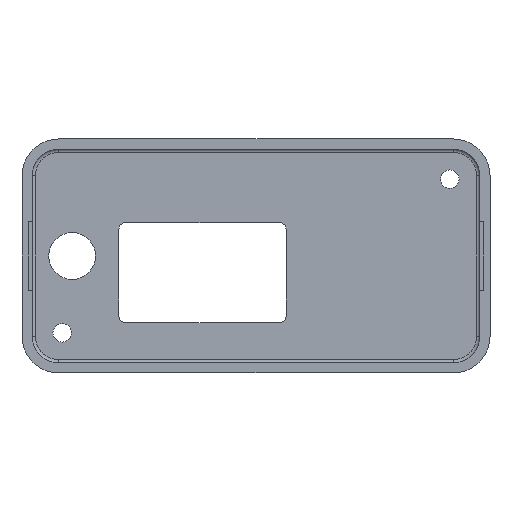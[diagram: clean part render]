
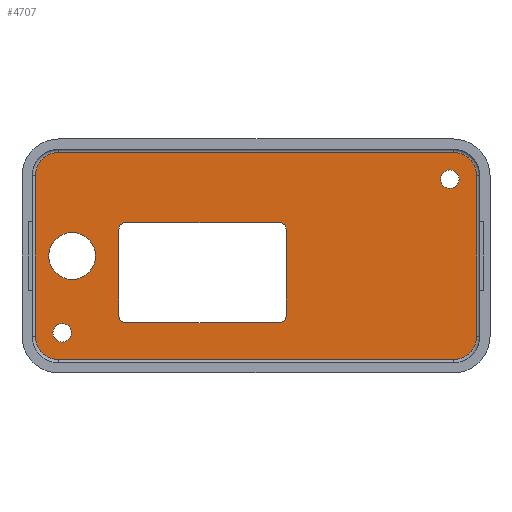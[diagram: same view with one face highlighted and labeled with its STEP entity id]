
A CAD part, front view. The second image highlights one B-rep face of the part: STEP entity #4707.
In plain terms, the highlighted planar face has unit normal (0, -1, 0).
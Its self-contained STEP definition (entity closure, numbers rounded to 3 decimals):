
#1384=CARTESIAN_POINT('',(-27.5,21.,0.));
#1385=DIRECTION('',(0.,1.,0.));
#1386=DIRECTION('',(-1.,0.,0.));
#1387=AXIS2_PLACEMENT_3D('',#1384,#1385,#1386);
#1389=CARTESIAN_POINT('',(-27.5,21.,0.));
#1390=DIRECTION('',(0.,1.,0.));
#1391=DIRECTION('',(1.,0.,0.));
#1392=AXIS2_PLACEMENT_3D('',#1389,#1390,#1391);
#1394=DIRECTION('',(0.,0.,-1.));
#1395=VECTOR('',#1394,13.);
#1396=CARTESIAN_POINT('',(4.5,21.,4.));
#1397=LINE('',#1396,#1395);
#1398=DIRECTION('',(1.,0.,0.));
#1399=VECTOR('',#1398,23.);
#1400=CARTESIAN_POINT('',(-19.5,21.,5.));
#1401=LINE('',#1400,#1399);
#1402=DIRECTION('',(0.,0.,1.));
#1403=VECTOR('',#1402,13.);
#1404=CARTESIAN_POINT('',(-20.5,21.,-9.));
#1405=LINE('',#1404,#1403);
#1406=DIRECTION('',(-1.,0.,0.));
#1407=VECTOR('',#1406,23.);
#1408=CARTESIAN_POINT('',(3.5,21.,-10.));
#1409=LINE('',#1408,#1407);
#1410=CARTESIAN_POINT('',(-29.,21.,-11.5));
#1411=DIRECTION('',(0.,1.,0.));
#1412=DIRECTION('',(0.,0.,-1.));
#1413=AXIS2_PLACEMENT_3D('',#1410,#1411,#1412);
#1415=CARTESIAN_POINT('',(-29.,21.,-11.5));
#1416=DIRECTION('',(0.,1.,0.));
#1417=DIRECTION('',(0.,0.,1.));
#1418=AXIS2_PLACEMENT_3D('',#1415,#1416,#1417);
#1420=CARTESIAN_POINT('',(29.,21.,11.5));
#1421=DIRECTION('',(0.,1.,0.));
#1422=DIRECTION('',(0.,0.,-1.));
#1423=AXIS2_PLACEMENT_3D('',#1420,#1421,#1422);
#1425=CARTESIAN_POINT('',(29.,21.,11.5));
#1426=DIRECTION('',(0.,1.,0.));
#1427=DIRECTION('',(0.,0.,1.));
#1428=AXIS2_PLACEMENT_3D('',#1425,#1426,#1427);
#1430=DIRECTION('',(0.,0.,1.));
#1431=VECTOR('',#1430,24.);
#1432=CARTESIAN_POINT('',(33.,21.,-12.));
#1433=LINE('',#1432,#1431);
#1434=CARTESIAN_POINT('',(29.5,21.,-12.));
#1435=DIRECTION('',(0.,-1.,0.));
#1436=DIRECTION('',(0.,0.,-1.));
#1437=AXIS2_PLACEMENT_3D('',#1434,#1435,#1436);
#1439=DIRECTION('',(1.,0.,0.));
#1440=VECTOR('',#1439,59.);
#1441=CARTESIAN_POINT('',(-29.5,21.,-15.5));
#1442=LINE('',#1441,#1440);
#1443=CARTESIAN_POINT('',(-29.5,21.,-12.));
#1444=DIRECTION('',(0.,-1.,0.));
#1445=DIRECTION('',(-1.,0.,0.));
#1446=AXIS2_PLACEMENT_3D('',#1443,#1444,#1445);
#1448=DIRECTION('',(0.,0.,-1.));
#1449=VECTOR('',#1448,24.);
#1450=CARTESIAN_POINT('',(-33.,21.,12.));
#1451=LINE('',#1450,#1449);
#1452=CARTESIAN_POINT('',(-29.5,21.,12.));
#1453=DIRECTION('',(0.,-1.,0.));
#1454=DIRECTION('',(0.,0.,1.));
#1455=AXIS2_PLACEMENT_3D('',#1452,#1453,#1454);
#1457=DIRECTION('',(-1.,0.,0.));
#1458=VECTOR('',#1457,59.);
#1459=CARTESIAN_POINT('',(29.5,21.,15.5));
#1460=LINE('',#1459,#1458);
#1461=CARTESIAN_POINT('',(29.5,21.,12.));
#1462=DIRECTION('',(0.,-1.,0.));
#1463=DIRECTION('',(1.,0.,0.));
#1464=AXIS2_PLACEMENT_3D('',#1461,#1462,#1463);
#1506=CARTESIAN_POINT('',(3.5,21.,4.));
#1507=DIRECTION('',(0.,1.,0.));
#1508=DIRECTION('',(0.,0.,1.));
#1509=AXIS2_PLACEMENT_3D('',#1506,#1507,#1508);
#1538=CARTESIAN_POINT('',(-19.5,21.,4.));
#1539=DIRECTION('',(0.,1.,0.));
#1540=DIRECTION('',(-1.,0.,0.));
#1541=AXIS2_PLACEMENT_3D('',#1538,#1539,#1540);
#1570=CARTESIAN_POINT('',(-19.5,21.,-9.));
#1571=DIRECTION('',(0.,1.,0.));
#1572=DIRECTION('',(0.,0.,-1.));
#1573=AXIS2_PLACEMENT_3D('',#1570,#1571,#1572);
#1605=CARTESIAN_POINT('',(3.5,21.,-9.));
#1606=DIRECTION('',(0.,1.,0.));
#1607=DIRECTION('',(1.,0.,0.));
#1608=AXIS2_PLACEMENT_3D('',#1605,#1606,#1607);
#3019=CARTESIAN_POINT('',(-31.,21.,0.));
#3020=CARTESIAN_POINT('',(-24.,21.,0.));
#3021=VERTEX_POINT('',#3019);
#3022=VERTEX_POINT('',#3020);
#3024=CARTESIAN_POINT('',(4.5,21.,4.));
#3026=VERTEX_POINT('',#3024);
#3028=CARTESIAN_POINT('',(3.5,21.,5.));
#3030=VERTEX_POINT('',#3028);
#3032=CARTESIAN_POINT('',(3.5,21.,-10.));
#3034=VERTEX_POINT('',#3032);
#3036=CARTESIAN_POINT('',(4.5,21.,-9.));
#3038=VERTEX_POINT('',#3036);
#3040=CARTESIAN_POINT('',(-20.5,21.,-9.));
#3042=VERTEX_POINT('',#3040);
#3044=CARTESIAN_POINT('',(-19.5,21.,-10.));
#3046=VERTEX_POINT('',#3044);
#3061=CARTESIAN_POINT('',(-19.5,21.,5.));
#3062=VERTEX_POINT('',#3061);
#3064=CARTESIAN_POINT('',(-20.5,21.,4.));
#3066=VERTEX_POINT('',#3064);
#3127=CARTESIAN_POINT('',(-29.,21.,-12.875));
#3128=CARTESIAN_POINT('',(-29.,21.,-10.125));
#3129=VERTEX_POINT('',#3127);
#3130=VERTEX_POINT('',#3128);
#3131=CARTESIAN_POINT('',(29.,21.,10.125));
#3132=CARTESIAN_POINT('',(29.,21.,12.875));
#3133=VERTEX_POINT('',#3131);
#3134=VERTEX_POINT('',#3132);
#3195=CARTESIAN_POINT('',(33.,21.,-12.));
#3196=CARTESIAN_POINT('',(33.,21.,12.));
#3197=VERTEX_POINT('',#3195);
#3198=VERTEX_POINT('',#3196);
#3201=CARTESIAN_POINT('',(29.5,21.,15.5));
#3202=VERTEX_POINT('',#3201);
#3205=CARTESIAN_POINT('',(-29.5,21.,15.5));
#3206=VERTEX_POINT('',#3205);
#3209=CARTESIAN_POINT('',(-33.,21.,12.));
#3210=VERTEX_POINT('',#3209);
#3213=CARTESIAN_POINT('',(-33.,21.,-12.));
#3214=VERTEX_POINT('',#3213);
#3217=CARTESIAN_POINT('',(-29.5,21.,-15.5));
#3218=VERTEX_POINT('',#3217);
#3221=CARTESIAN_POINT('',(29.5,21.,-15.5));
#3222=VERTEX_POINT('',#3221);
#4656=CARTESIAN_POINT('',(0.,21.,0.));
#4657=DIRECTION('',(0.,1.,0.));
#4658=DIRECTION('',(-1.,0.,0.));
#4659=AXIS2_PLACEMENT_3D('',#4656,#4657,#4658);
#4660=PLANE('',#4659);
#4661=ORIENTED_EDGE('',*,*,#4262,.F.);
#4662=ORIENTED_EDGE('',*,*,#4278,.F.);
#4663=ORIENTED_EDGE('',*,*,#4505,.F.);
#4664=ORIENTED_EDGE('',*,*,#4520,.F.);
#4665=ORIENTED_EDGE('',*,*,#4568,.F.);
#4666=ORIENTED_EDGE('',*,*,#4583,.F.);
#4667=ORIENTED_EDGE('',*,*,#4624,.F.);
#4668=ORIENTED_EDGE('',*,*,#4638,.F.);
#4669=EDGE_LOOP('',(#4661,#4662,#4663,#4664,#4665,#4666,#4667,#4668));
#4670=FACE_OUTER_BOUND('',#4669,.F.);
#4672=ORIENTED_EDGE('',*,*,#4671,.F.);
#4674=ORIENTED_EDGE('',*,*,#4673,.F.);
#4676=ORIENTED_EDGE('',*,*,#4675,.F.);
#4678=ORIENTED_EDGE('',*,*,#4677,.F.);
#4680=ORIENTED_EDGE('',*,*,#4679,.F.);
#4682=ORIENTED_EDGE('',*,*,#4681,.F.);
#4684=ORIENTED_EDGE('',*,*,#4683,.F.);
#4686=ORIENTED_EDGE('',*,*,#4685,.F.);
#4687=EDGE_LOOP('',(#4672,#4674,#4676,#4678,#4680,#4682,#4684,#4686));
#4688=FACE_BOUND('',#4687,.F.);
#4690=ORIENTED_EDGE('',*,*,#4689,.F.);
#4692=ORIENTED_EDGE('',*,*,#4691,.F.);
#4693=EDGE_LOOP('',(#4690,#4692));
#4694=FACE_BOUND('',#4693,.F.);
#4696=ORIENTED_EDGE('',*,*,#4695,.F.);
#4698=ORIENTED_EDGE('',*,*,#4697,.F.);
#4699=EDGE_LOOP('',(#4696,#4698));
#4700=FACE_BOUND('',#4699,.F.);
#4702=ORIENTED_EDGE('',*,*,#4701,.F.);
#4704=ORIENTED_EDGE('',*,*,#4703,.F.);
#4705=EDGE_LOOP('',(#4702,#4704));
#4706=FACE_BOUND('',#4705,.F.);
#4707=ADVANCED_FACE('',(#4670,#4688,#4694,#4700,#4706),#4660,.F.);
#1388=CIRCLE('',#1387,3.5);
#1393=CIRCLE('',#1392,3.5);
#1414=CIRCLE('',#1413,1.375);
#1419=CIRCLE('',#1418,1.375);
#1424=CIRCLE('',#1423,1.375);
#1429=CIRCLE('',#1428,1.375);
#1438=CIRCLE('',#1437,3.5);
#1447=CIRCLE('',#1446,3.5);
#1456=CIRCLE('',#1455,3.5);
#1465=CIRCLE('',#1464,3.5);
#1510=CIRCLE('',#1509,1.);
#1542=CIRCLE('',#1541,1.);
#1574=CIRCLE('',#1573,1.);
#1609=CIRCLE('',#1608,1.);
#4262=EDGE_CURVE('',#3197,#3198,#1433,.T.);
#4278=EDGE_CURVE('',#3222,#3197,#1438,.T.);
#4505=EDGE_CURVE('',#3218,#3222,#1442,.T.);
#4520=EDGE_CURVE('',#3214,#3218,#1447,.T.);
#4568=EDGE_CURVE('',#3210,#3214,#1451,.T.);
#4583=EDGE_CURVE('',#3206,#3210,#1456,.T.);
#4624=EDGE_CURVE('',#3202,#3206,#1460,.T.);
#4638=EDGE_CURVE('',#3198,#3202,#1465,.T.);
#4671=EDGE_CURVE('',#3026,#3038,#1397,.T.);
#4673=EDGE_CURVE('',#3030,#3026,#1510,.T.);
#4675=EDGE_CURVE('',#3062,#3030,#1401,.T.);
#4677=EDGE_CURVE('',#3066,#3062,#1542,.T.);
#4679=EDGE_CURVE('',#3042,#3066,#1405,.T.);
#4681=EDGE_CURVE('',#3046,#3042,#1574,.T.);
#4683=EDGE_CURVE('',#3034,#3046,#1409,.T.);
#4685=EDGE_CURVE('',#3038,#3034,#1609,.T.);
#4689=EDGE_CURVE('',#3129,#3130,#1414,.T.);
#4691=EDGE_CURVE('',#3130,#3129,#1419,.T.);
#4695=EDGE_CURVE('',#3133,#3134,#1424,.T.);
#4697=EDGE_CURVE('',#3134,#3133,#1429,.T.);
#4701=EDGE_CURVE('',#3021,#3022,#1388,.T.);
#4703=EDGE_CURVE('',#3022,#3021,#1393,.T.);
